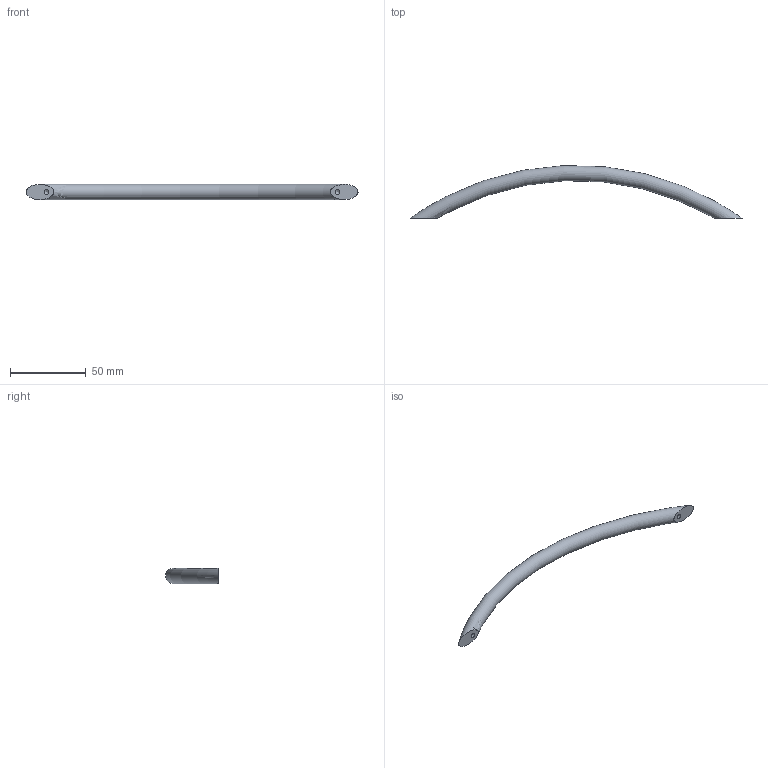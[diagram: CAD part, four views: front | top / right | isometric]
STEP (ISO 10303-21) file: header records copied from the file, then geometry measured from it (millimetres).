
FILE_DESCRIPTION( ( 'STEP AP203' ), '1' );
FILE_NAME( 'C:/Temp/Ganter_Step_05_03_2020/data/1_2/gn424_1/Arch handle GN 424.1-10-192-SW.stp', '2020-03-05T10:12:26', ( 'License CC BY-ND 4.0' ), ( 'CADENAS' ), ' ', 'PARTsolutions', ' ' );
FILE_SCHEMA( ( 'CONFIG_CONTROL_DESIGN' ) );
Length unit declared in the file: millimetre
Products named in the file (1): _Arch handle GN 424.1-10-192-SW
Bounding box: 219 x 34.83 x 9.98 mm (x, y, z)
Volume: 16627.6 mm3; surface area: 7082.8 mm2
Topology: 1 solids, 1 shells, 7 faces, 14 edges, 9 vertices
Faces by surface type: cone 2, cylinder 2, plane 2, torus 1
Full cylindrical faces by diameter (mm): 3.242 x2
Entity records: 332 total; most frequent: CARTESIAN_POINT 174, DIRECTION 24, AXIS2_PLACEMENT_3D 12, EDGE_LOOP 12, ORIENTED_EDGE 12, FACE_OUTER_BOUND 10, VERTEX_POINT 8, ADVANCED_FACE 7
